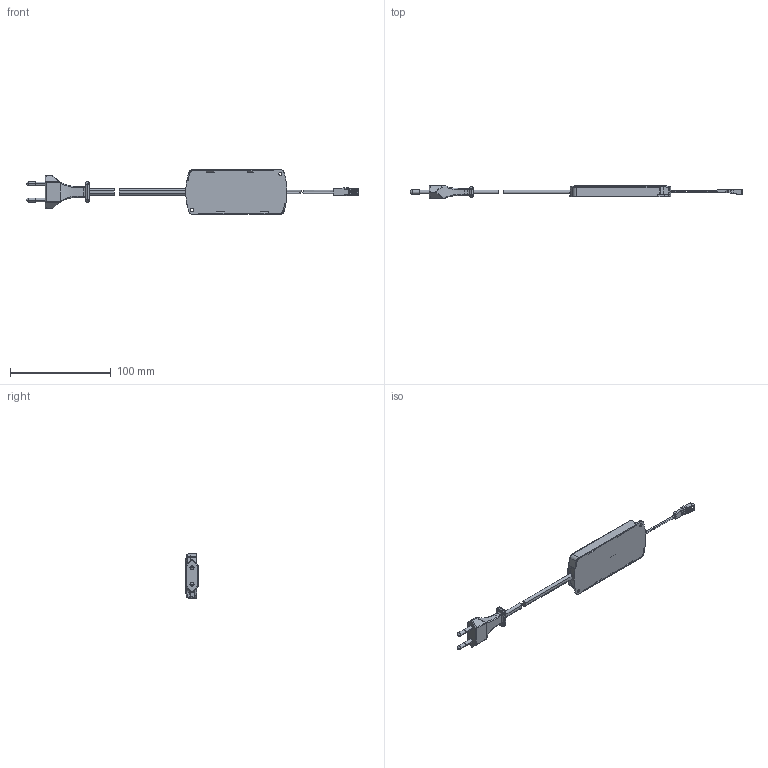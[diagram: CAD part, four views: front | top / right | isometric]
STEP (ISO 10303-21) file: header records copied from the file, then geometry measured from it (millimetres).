
FILE_DESCRIPTION (( 'STEP AP203' ), '1' );
FILE_NAME ('LED_EVG_12VDC_6W_24.STEP', '2024-12-03T08:17:23', ( '' ), ( '' ), 'SwSTEP 2.0', 'SolidWorks 2023', '' );
FILE_SCHEMA (( 'CONFIG_CONTROL_DESIGN' ));
Length unit declared in the file: millimetre
Products named in the file (4): Euroflachstecker_DAM_weiss; HJA6-12_24VF; LED_EVG_12VDC_6W_24; LED_Buchse_DAM_LTG_50mm_geb.
Assembly tree (3 placements, depth 2):
  LED_EVG_12VDC_6W_24
    HJA6-12_24VF
    LED_Buchse_DAM_LTG_50mm_geb.
    Euroflachstecker_DAM_weiss
Bounding box: 329.14 x 13 x 44.2 mm (x, y, z)
Volume: 33301.8 mm3; surface area: 43170.6 mm2
Topology: 18 solids, 18 shells, 1242 faces, 3310 edges, 2089 vertices
Faces by surface type: plane 659, cylinder 335, torus 71, cone 71, bspline 57, sphere 49
Entity records: 42761 total; most frequent: CARTESIAN_POINT 12438, ORIENTED_EDGE 6528, DIRECTION 5885, EDGE_CURVE 3264, VERTEX_POINT 2080, AXIS2_PLACEMENT_3D 1980, VECTOR 1925, LINE 1925
